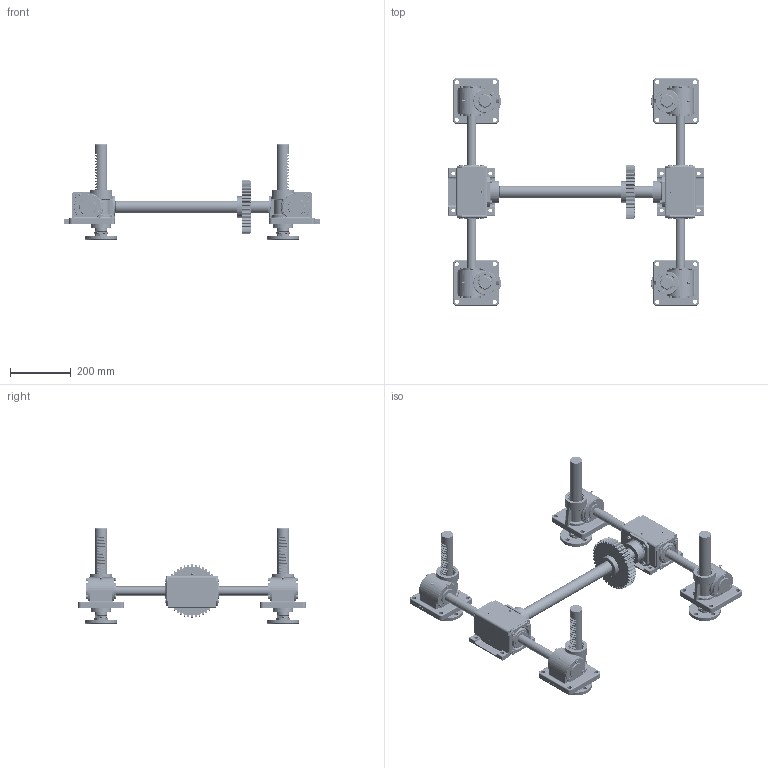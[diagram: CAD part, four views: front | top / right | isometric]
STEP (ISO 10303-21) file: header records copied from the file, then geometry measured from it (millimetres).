
FILE_DESCRIPTION(('STEP AP203'),'1');
FILE_NAME('RJ20-4SU-600x600-300-150ST.stp','2022-07-05T23:39:50',(' '),(' '),'Spatial InterOp 3D',' ',' ');
FILE_SCHEMA(('CONFIG_CONTROL_DESIGN'));
Length unit declared in the file: millimetre
Products named in the file (138): RJ20-4SU-600x600-300-150ST; ASSEM1; Flange.1-Part; Flange.1; Joint.1; Nut.1; Flange.2-Part; Flange.2; Joint.2; Nut.2; Flange.3-Part; Flange.3; Joint.3; Nut.3; Flange.4-Part; Flange.4; Joint.4; Nut.4; Body.1-Part; Nipple; Bolt; Bearing Cover Open.1(RJ20); Bearing Cover Close.1(RJ20); Gear Box.1(RJ20); RJ05-4SCJ-610X600-100ST_CAP; LABEL-B.1; SUNIL __; 파트1; Body.2-Part; Bearing Cover Open.2(RJ20); Bearing Cover Close.2(RJ20); Gear Box.2(RJ20); Body.3-Part; Bearing Cover Open.3(RJ20); Bearing Cover Close.3(RJ20); Gear Box.3(RJ20); Body.4-Part; Bearing Cover Open.4(RJ20); Bearing Cover Close.4(RJ20); Gear Box.4(RJ20)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
Assembly tree (138 placements, depth 7):
  RJ20-4SU-600x600-300-150ST
    ASSEM1
    (unnamed)
    (unnamed)
    (unnamed)
    Flange.1-Part
      Flange.1
      Joint.1
      Nut.1
    Flange.2-Part
      Flange.2
      Joint.2
      Nut.2
    Flange.3-Part
      Flange.3
      Joint.3
      Nut.3
    Flange.4-Part
      Flange.4
      Joint.4
      Nut.4
    Body.1-Part
      Nipple
      Bolt
      Bolt
      Bolt
      Bolt
      Bolt
      Bolt
      Bearing Cover Open.1(RJ20)
      Bearing Cover Close.1(RJ20)
      Gear Box.1(RJ20)
      SUNIL __
        RJ05-4SCJ-610X600-100ST_CAP
          LABEL-B.1
        파트1
    Body.2-Part
      Nipple
      Bolt
      Bolt
      Bolt
      Bolt
      Bolt
      Bolt
      Bearing Cover Open.2(RJ20)
      Bearing Cover Close.2(RJ20)
      Gear Box.2(RJ20)
      SUNIL __
        RJ05-4SCJ-610X600-100ST_CAP
          LABEL-B.1
        파트1
    Body.3-Part
      Nipple
      Bolt
      Bolt
      Bolt
      Bolt
      Bolt
      Bolt
      Bearing Cover Open.3(RJ20)
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Bounding box: 842 x 750 x 315 mm (x, y, z)
Volume: 8868453 mm3; surface area: 1795417 mm2
Topology: 162 solids, 162 shells, 14699 faces, 41063 edges, 26971 vertices
Faces by surface type: plane 12044, cylinder 1323, cone 506, torus 442, extrusion 166, bspline 144, revolution 42, sphere 32
Full cylindrical faces by diameter (mm): 3.113 x6, 6 x36, 6.6 x6, 8 x72, 8.5 x24, 9 x24, 11 x24, 12 x8, 13 x24, 14 x32, 28 x4, 30 x10, 30.5 x4, 32 x8, 35 x2, 40 x5, 42 x2, 43 x4, 44 x12, 45 x4, 46 x8, 50 x8, 52 x8, 53 x4, 54 x4, 55 x16, 56 x2, 58 x4, 61.4 x8, 62 x10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
Entity records: 487002 total; most frequent: CARTESIAN_POINT 107136, ORIENTED_EDGE 79688, DIRECTION 71644, EDGE_CURVE 39844, VECTOR 34584, LINE 34418, VERTEX_POINT 26649, AXIS2_PLACEMENT_3D 18509
